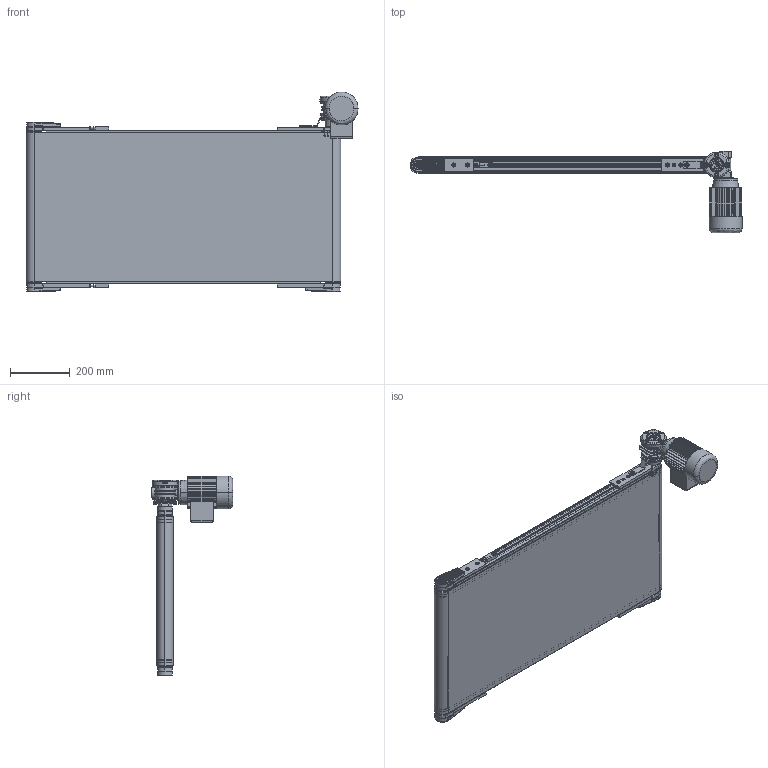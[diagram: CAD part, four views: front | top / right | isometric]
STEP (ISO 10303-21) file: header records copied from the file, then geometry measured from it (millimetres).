
FILE_DESCRIPTION (( 'STEP AP203' ), '1' );
FILE_NAME ('NASTRO_RETTILINEO_TAPPETO.step', '2026-04-21T12:06:47', ( 'Utente Windows' ), ( '' ), 'SwSTEP 2.0', 'SolidWorks 2024', '' );
FILE_SCHEMA (( 'CONFIG_CONTROL_DESIGN' ));
Length unit declared in the file: millimetre
Products named in the file (35): 084.802.061; VITI TCEI UNI 5931_M4x25 UNI 5931; TAPPETO_STANDARD_CINGHIE; LAMIERA_STANDARD; 084.802.008; VITI TSEI UNI 5933_M5x12 UNI 5933; 084.803.018; CH03P_DX; BLOCCO_TRAINO_50_STANDARD; 084.802.062; VITI TSEI UNI 5933 INOX_0412UNI5933A2; 084.802.065_Default<A macchina>; VITI TSEI UNI 5933_M4x10 UNI 5933; 084.802.017_084.802.017; RULLO_50_TRAINO_CINGHIE_30_DX; 084.807.003_084.807.003<A macchina>; 084.301.000 VITI ALUSIC_084.301.003; NASTRO_RETTILINEO_TAPPETO; VITI TE UNI 5739_M6x16 UNI 5739; 084.302.000 DADI ALUSIC 13x13-1_084.302.004; 084.808.012; VITI TSEI UNI 5933_M4x12 UNI 5933; 084.807.002_084.807.002; BLOCCO_TRAINO_50_STANDARD_30_DX; VITI TCEI UNI 5931_M6x12 UNI 5931; 084.303.001; 084.302.000 DADI ALUSIC 13x13-1_084.302.007; RULLO_50_RINVIO_CINGHIE; BLOCCO_RINVIO_50_STANDARD; 084.302.000 DADI ALUSIC 13x13_084.302.004; VITE_DADO_M5X12; 084.802.071; BLOCCO_BRACCIO_CH03P_VF30P; TELAIO_50_CINGHIE_Default<A macchina>; VITE_RONDELLA_M8X20
Assembly tree (70 placements, depth 4):
  NASTRO_RETTILINEO_TAPPETO
    TAPPETO_STANDARD_CINGHIE
    TELAIO_50_CINGHIE_Default<A macchina>
    LAMIERA_STANDARD
    RULLO_50_TRAINO_CINGHIE_30_DX
    BLOCCO_TRAINO_50_STANDARD_30_DX
      084.807.003_084.807.003<A macchina>
      084.802.017_084.802.017
      084.301.000 VITI ALUSIC_084.301.003  x2
      084.302.000 DADI ALUSIC 13x13-1_084.302.004  x2
      BLOCCO_BRACCIO_CH03P_VF30P
        084.808.012
        084.802.062
        084.802.061
        VITI TE UNI 5739_M6x16 UNI 5739  x4
        084.803.018
        VITI TCEI UNI 5931_M6x12 UNI 5931  x4
      084.802.065_Default<A macchina>
      VITI TCEI UNI 5931_M4x25 UNI 5931  x2
    BLOCCO_TRAINO_50_STANDARD
      084.807.002_084.807.002
      084.802.017_084.802.017
      084.301.000 VITI ALUSIC_084.301.003  x2
      084.302.000 DADI ALUSIC 13x13-1_084.302.004  x2
      VITI TSEI UNI 5933_M4x12 UNI 5933  x4
      084.802.071
      VITI TSEI UNI 5933 INOX_0412UNI5933A2  x2
    RULLO_50_RINVIO_CINGHIE
    BLOCCO_RINVIO_50_STANDARD  x2
      084.807.002_084.807.002
      084.802.017_084.802.017
      084.802.008
      084.301.000 VITI ALUSIC_084.301.003
      084.302.000 DADI ALUSIC 13x13_084.302.004
      VITI TSEI UNI 5933_M4x10 UNI 5933
      084.802.071
    VITE_RONDELLA_M8X20  x3
      084.303.001
      084.301.000 VITI ALUSIC_084.301.003
    VITE_DADO_M5X12  x6
      084.302.000 DADI ALUSIC 13x13-1_084.302.007
      VITI TSEI UNI 5933_M5x12 UNI 5933
    CH03P_DX
Bounding box: 1112 x 273 x 669 mm (x, y, z)
Volume: 10414241.4 mm3; surface area: 5545535.4 mm2
Topology: 102 solids, 108 shells, 5366 faces, 13789 edges, 8765 vertices
Faces by surface type: plane 2772, cylinder 1280, cone 519, bspline 506, torus 251, sphere 38
Entity records: 116874 total; most frequent: CARTESIAN_POINT 34261, ORIENTED_EDGE 16830, DIRECTION 15671, EDGE_CURVE 8415, AXIS2_PLACEMENT_3D 5433, VERTEX_POINT 5377, LINE 4805, VECTOR 4805
